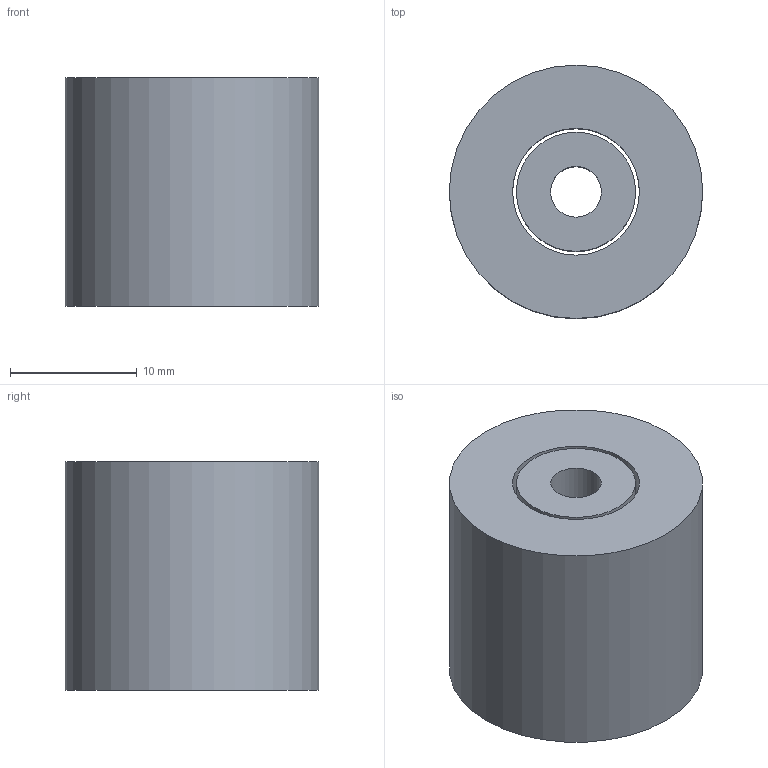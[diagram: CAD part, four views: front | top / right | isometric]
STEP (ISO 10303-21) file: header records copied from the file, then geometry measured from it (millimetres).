
FILE_DESCRIPTION(/* description */ ('RE2010 Serie'),/* implementation_level */ '2;1');
FILE_NAME(/* name */ 'C:\Users\m.zuercher\Desktop\RE2010_Serie.stp',/* time_stamp */ '2023-03-29T06:37:57+02:00',/* author */ ('m.zuercher'),/* organization */ (''),/* preprocessor_version */ 'ST-DEVELOPER v18.1',/* originating_system */ 'Autodesk Inventor 2021',/* authorisation */ '');
FILE_SCHEMA (('AUTOMOTIVE_DESIGN { 1 0 10303 214 3 1 1 }'));
Length unit declared in the file: millimetre
Products named in the file (3): 8200.00.0x0; RE2010_Serie_Stator; RE2010_Serie_Rotor
Assembly tree (2 placements, depth 2):
  8200.00.0x0
    RE2010_Serie_Stator
    RE2010_Serie_Rotor
Bounding box: 20 x 20 x 18 mm (x, y, z)
Volume: 5264.1 mm3; surface area: 3039.1 mm2
Topology: 2 solids, 2 shells, 8 faces, 12 edges, 8 vertices
Faces by surface type: plane 4, cylinder 4
Full cylindrical faces by diameter (mm): 4 x1, 9.4 x1, 10 x1, 20 x1
Entity records: 297 total; most frequent: DIRECTION 46, CARTESIAN_POINT 33, ORIENTED_EDGE 24, AXIS2_PLACEMENT_3D 21, EDGE_LOOP 12, EDGE_CURVE 12, FACE_OUTER_BOUND 8, CIRCLE 8
